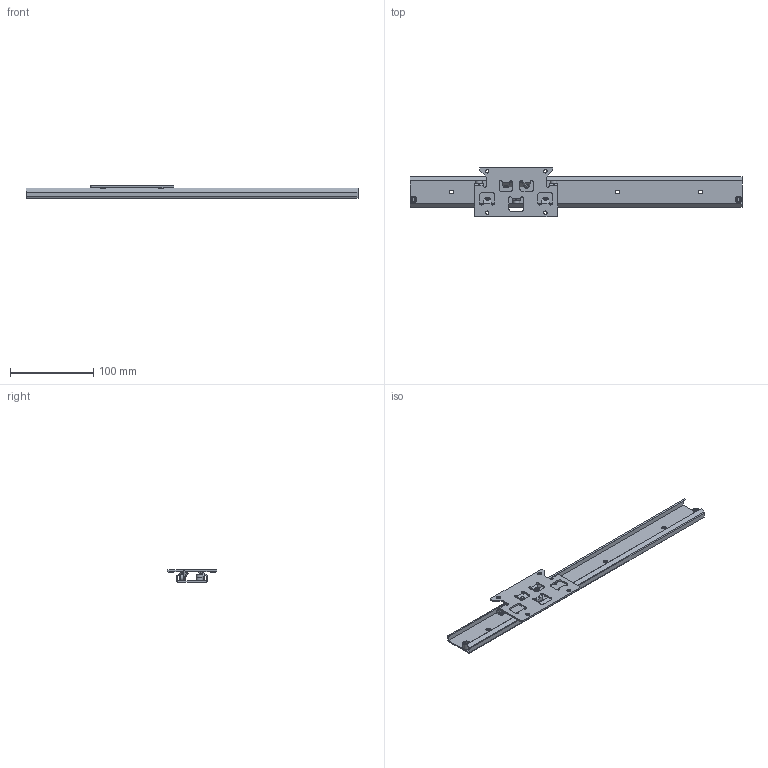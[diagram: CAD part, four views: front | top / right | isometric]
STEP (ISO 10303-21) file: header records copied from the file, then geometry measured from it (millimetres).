
FILE_DESCRIPTION((''),'1');
FILE_NAME('H:/図庫/国内ﾕﾆｯﾄ/ｽﾗｲﾄﾞ/ホームページ用ＣＡＤ図面/3D/37SW/stp', '2018-10-22T23:32:06',(''), (''), 'KCM Version 1.1.1442.0', 'Kubotek KeyCreator', '');
FILE_SCHEMA(('AUTOMOTIVE_DESIGN'));
Length unit declared in the file: millimetre
Bounding box: 400 x 60 x 14.8 mm (x, y, z)
Surface area: 64724.6 mm2 (no closed solid volume)
Topology: 0 solids, 607 shells, 607 faces, 2395 edges, 2094 vertices
Faces by surface type: plane 250, cone 170, cylinder 132, torus 48, bspline 6, sphere 1
Full cylindrical faces by diameter (mm): 2.3 x6, 2.44 x7, 3 x21, 3.5 x1, 4 x7, 4.03 x6, 4.5 x6, 5 x6, 5.5 x2, 5.6 x3, 6 x5, 8 x6, 8.2 x2
Entity records: 26425 total; most frequent: CARTESIAN_POINT 5424, DIRECTION 4717, ORIENTED_EDGE 2696, EDGE_CURVE 2394, VERTEX_POINT 2087, AXIS2_PLACEMENT_3D 1836, CIRCLE 1200, VECTOR 1045
